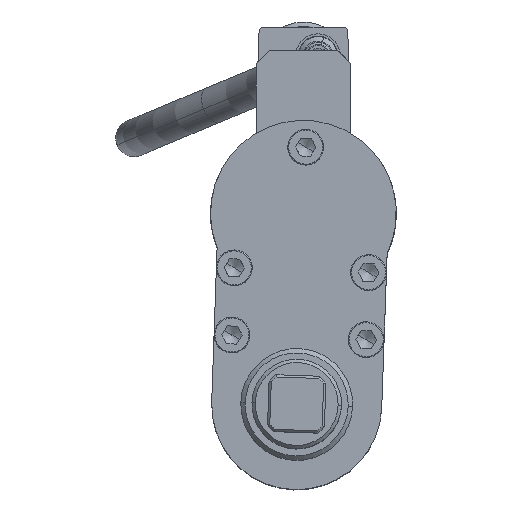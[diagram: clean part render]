
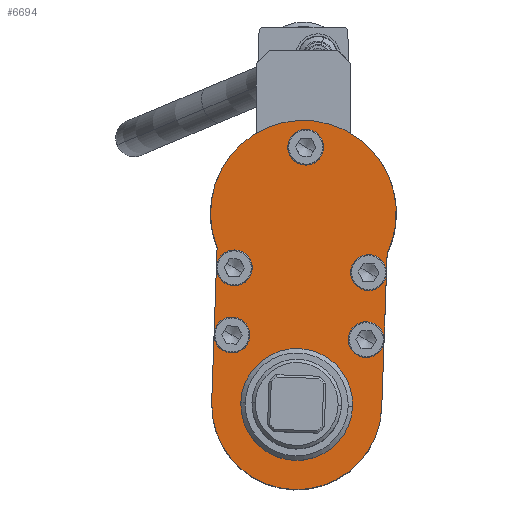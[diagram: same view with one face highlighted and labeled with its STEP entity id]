
A CAD part, top view. The second image highlights one B-rep face of the part: STEP entity #6694.
In plain terms, the highlighted planar face has unit normal (0, 0, 1).
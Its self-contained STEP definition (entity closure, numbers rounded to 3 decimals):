
#6550=AXIS2_PLACEMENT_3D('Plane Axis2P3D',#6547,#6548,#6549) ;
#6554=AXIS2_PLACEMENT_3D('Circle Axis2P3D',#6552,#6553,$) ;
#6570=AXIS2_PLACEMENT_3D('Circle Axis2P3D',#6568,#6569,$) ;
#6588=AXIS2_PLACEMENT_3D('Circle Axis2P3D',#6586,#6587,$) ;
#6597=AXIS2_PLACEMENT_3D('Circle Axis2P3D',#6595,#6596,$) ;
#6606=AXIS2_PLACEMENT_3D('Circle Axis2P3D',#6604,#6605,$) ;
#6615=AXIS2_PLACEMENT_3D('Circle Axis2P3D',#6613,#6614,$) ;
#6624=AXIS2_PLACEMENT_3D('Circle Axis2P3D',#6622,#6623,$) ;
#6633=AXIS2_PLACEMENT_3D('Circle Axis2P3D',#6631,#6632,$) ;
#6642=AXIS2_PLACEMENT_3D('Circle Axis2P3D',#6640,#6641,$) ;
#6651=AXIS2_PLACEMENT_3D('Circle Axis2P3D',#6649,#6650,$) ;
#6660=AXIS2_PLACEMENT_3D('Circle Axis2P3D',#6658,#6659,$) ;
#6669=AXIS2_PLACEMENT_3D('Circle Axis2P3D',#6667,#6668,$) ;
#6678=AXIS2_PLACEMENT_3D('Circle Axis2P3D',#6676,#6677,$) ;
#6687=AXIS2_PLACEMENT_3D('Circle Axis2P3D',#6685,#6686,$) ;
#6547=CARTESIAN_POINT('Axis2P3D Location',(-2.984,-85.448,581.6)) ;
#6552=CARTESIAN_POINT('Axis2P3D Location',(-2.984,-85.448,581.6)) ;
#6556=CARTESIAN_POINT('Vertex',(-40.961,-84.122,581.6)) ;
#6558=CARTESIAN_POINT('Vertex',(34.993,-86.774,581.6)) ;
#6561=CARTESIAN_POINT('Line Origine',(36.194,-52.385,581.6)) ;
#6565=CARTESIAN_POINT('Vertex',(37.395,-17.997,581.6)) ;
#6568=CARTESIAN_POINT('Axis2P3D Location',(0.,0.,581.6)) ;
#6572=CARTESIAN_POINT('Vertex',(-38.559,-15.344,581.6)) ;
#6575=CARTESIAN_POINT('Line Origine',(-39.76,-49.733,581.6)) ;
#6586=CARTESIAN_POINT('Axis2P3D Location',(1.03,29.482,581.6)) ;
#6590=CARTESIAN_POINT('Vertex',(-3.004,31.872,581.6)) ;
#6592=CARTESIAN_POINT('Vertex',(5.063,27.092,581.6)) ;
#6595=CARTESIAN_POINT('Axis2P3D Location',(1.03,29.482,581.6)) ;
#6604=CARTESIAN_POINT('Axis2P3D Location',(-31.919,-54.419,581.6)) ;
#6608=CARTESIAN_POINT('Vertex',(-35.952,-52.029,581.6)) ;
#6610=CARTESIAN_POINT('Vertex',(-27.885,-56.809,581.6)) ;
#6613=CARTESIAN_POINT('Axis2P3D Location',(-31.919,-54.419,581.6)) ;
#6622=CARTESIAN_POINT('Axis2P3D Location',(-2.984,-85.448,581.6)) ;
#6626=CARTESIAN_POINT('Vertex',(22.001,-86.32,581.6)) ;
#6628=CARTESIAN_POINT('Vertex',(-27.969,-84.575,581.6)) ;
#6631=CARTESIAN_POINT('Axis2P3D Location',(-2.984,-85.448,581.6)) ;
#6640=CARTESIAN_POINT('Axis2P3D Location',(28.045,-56.513,581.6)) ;
#6644=CARTESIAN_POINT('Vertex',(32.078,-58.903,581.6)) ;
#6646=CARTESIAN_POINT('Vertex',(24.012,-54.123,581.6)) ;
#6649=CARTESIAN_POINT('Axis2P3D Location',(28.045,-56.513,581.6)) ;
#6658=CARTESIAN_POINT('Axis2P3D Location',(-30.872,-24.437,581.6)) ;
#6662=CARTESIAN_POINT('Vertex',(-26.838,-26.827,581.6)) ;
#6664=CARTESIAN_POINT('Vertex',(-34.905,-22.048,581.6)) ;
#6667=CARTESIAN_POINT('Axis2P3D Location',(-30.872,-24.437,581.6)) ;
#6676=CARTESIAN_POINT('Axis2P3D Location',(29.092,-26.531,581.6)) ;
#6680=CARTESIAN_POINT('Vertex',(33.125,-28.921,581.6)) ;
#6682=CARTESIAN_POINT('Vertex',(25.059,-24.142,581.6)) ;
#6685=CARTESIAN_POINT('Axis2P3D Location',(29.092,-26.531,581.6)) ;
#6548=DIRECTION('Axis2P3D Direction',(-0.,0.,1.)) ;
#6549=DIRECTION('Axis2P3D XDirection',(0.999,-0.035,0.)) ;
#6553=DIRECTION('Axis2P3D Direction',(-0.,0.,1.)) ;
#6562=DIRECTION('Vector Direction',(0.035,0.999,0.)) ;
#6569=DIRECTION('Axis2P3D Direction',(-0.,0.,1.)) ;
#6576=DIRECTION('Vector Direction',(-0.035,-0.999,0.)) ;
#6587=DIRECTION('Axis2P3D Direction',(-0.,0.,1.)) ;
#6596=DIRECTION('Axis2P3D Direction',(-0.,0.,1.)) ;
#6605=DIRECTION('Axis2P3D Direction',(-0.,0.,1.)) ;
#6614=DIRECTION('Axis2P3D Direction',(-0.,0.,1.)) ;
#6623=DIRECTION('Axis2P3D Direction',(-0.,0.,1.)) ;
#6632=DIRECTION('Axis2P3D Direction',(-0.,0.,1.)) ;
#6641=DIRECTION('Axis2P3D Direction',(-0.,0.,1.)) ;
#6650=DIRECTION('Axis2P3D Direction',(-0.,0.,1.)) ;
#6659=DIRECTION('Axis2P3D Direction',(-0.,0.,1.)) ;
#6668=DIRECTION('Axis2P3D Direction',(-0.,0.,1.)) ;
#6677=DIRECTION('Axis2P3D Direction',(-0.,0.,1.)) ;
#6686=DIRECTION('Axis2P3D Direction',(-0.,0.,1.)) ;
#6563=VECTOR('Line Direction',#6562,1.) ;
#6577=VECTOR('Line Direction',#6576,1.) ;
#6581=ORIENTED_EDGE('',*,*,#6560,.T.) ;
#6582=ORIENTED_EDGE('',*,*,#6567,.T.) ;
#6583=ORIENTED_EDGE('',*,*,#6574,.T.) ;
#6584=ORIENTED_EDGE('',*,*,#6579,.T.) ;
#6601=ORIENTED_EDGE('',*,*,#6594,.F.) ;
#6602=ORIENTED_EDGE('',*,*,#6599,.F.) ;
#6619=ORIENTED_EDGE('',*,*,#6612,.F.) ;
#6620=ORIENTED_EDGE('',*,*,#6617,.F.) ;
#6637=ORIENTED_EDGE('',*,*,#6630,.F.) ;
#6638=ORIENTED_EDGE('',*,*,#6635,.F.) ;
#6655=ORIENTED_EDGE('',*,*,#6648,.F.) ;
#6656=ORIENTED_EDGE('',*,*,#6653,.F.) ;
#6673=ORIENTED_EDGE('',*,*,#6666,.F.) ;
#6674=ORIENTED_EDGE('',*,*,#6671,.F.) ;
#6691=ORIENTED_EDGE('',*,*,#6684,.F.) ;
#6692=ORIENTED_EDGE('',*,*,#6689,.F.) ;
#6603=FACE_BOUND('',#6600,.T.) ;
#6621=FACE_BOUND('',#6618,.T.) ;
#6639=FACE_BOUND('',#6636,.T.) ;
#6657=FACE_BOUND('',#6654,.T.) ;
#6675=FACE_BOUND('',#6672,.T.) ;
#6693=FACE_BOUND('',#6690,.T.) ;
#6694=ADVANCED_FACE('AO3325.1\\AO3325_Gehauese.1\\Hauptk\X2\00F6\X0\rper',(#6585,#6603,#6621,#6639,#6657,#6675,#6693),#6551,.T.) ;
#6555=CIRCLE('generated circle',#6554,38.) ;
#6571=CIRCLE('generated circle',#6570,41.5) ;
#6589=CIRCLE('generated circle',#6588,4.688) ;
#6598=CIRCLE('generated circle',#6597,4.688) ;
#6607=CIRCLE('generated circle',#6606,4.688) ;
#6616=CIRCLE('generated circle',#6615,4.688) ;
#6625=CIRCLE('generated circle',#6624,25.) ;
#6634=CIRCLE('generated circle',#6633,25.) ;
#6643=CIRCLE('generated circle',#6642,4.688) ;
#6652=CIRCLE('generated circle',#6651,4.688) ;
#6661=CIRCLE('generated circle',#6660,4.688) ;
#6670=CIRCLE('generated circle',#6669,4.688) ;
#6679=CIRCLE('generated circle',#6678,4.688) ;
#6688=CIRCLE('generated circle',#6687,4.688) ;
#6560=EDGE_CURVE('',#6557,#6559,#6555,.T.) ;
#6567=EDGE_CURVE('',#6559,#6566,#6564,.T.) ;
#6574=EDGE_CURVE('',#6566,#6573,#6571,.T.) ;
#6579=EDGE_CURVE('',#6573,#6557,#6578,.T.) ;
#6594=EDGE_CURVE('',#6591,#6593,#6589,.T.) ;
#6599=EDGE_CURVE('',#6593,#6591,#6598,.T.) ;
#6612=EDGE_CURVE('',#6609,#6611,#6607,.T.) ;
#6617=EDGE_CURVE('',#6611,#6609,#6616,.T.) ;
#6630=EDGE_CURVE('',#6627,#6629,#6625,.T.) ;
#6635=EDGE_CURVE('',#6629,#6627,#6634,.T.) ;
#6648=EDGE_CURVE('',#6645,#6647,#6643,.T.) ;
#6653=EDGE_CURVE('',#6647,#6645,#6652,.T.) ;
#6666=EDGE_CURVE('',#6663,#6665,#6661,.T.) ;
#6671=EDGE_CURVE('',#6665,#6663,#6670,.T.) ;
#6684=EDGE_CURVE('',#6681,#6683,#6679,.T.) ;
#6689=EDGE_CURVE('',#6683,#6681,#6688,.T.) ;
#6580=EDGE_LOOP('',(#6581,#6582,#6583,#6584)) ;
#6600=EDGE_LOOP('',(#6601,#6602)) ;
#6618=EDGE_LOOP('',(#6619,#6620)) ;
#6636=EDGE_LOOP('',(#6637,#6638)) ;
#6654=EDGE_LOOP('',(#6655,#6656)) ;
#6672=EDGE_LOOP('',(#6673,#6674)) ;
#6690=EDGE_LOOP('',(#6691,#6692)) ;
#6585=FACE_OUTER_BOUND('',#6580,.T.) ;
#6564=LINE('Line',#6561,#6563) ;
#6578=LINE('Line',#6575,#6577) ;
#6551=PLANE('Plane',#6550) ;
#6557=VERTEX_POINT('',#6556) ;
#6559=VERTEX_POINT('',#6558) ;
#6566=VERTEX_POINT('',#6565) ;
#6573=VERTEX_POINT('',#6572) ;
#6591=VERTEX_POINT('',#6590) ;
#6593=VERTEX_POINT('',#6592) ;
#6609=VERTEX_POINT('',#6608) ;
#6611=VERTEX_POINT('',#6610) ;
#6627=VERTEX_POINT('',#6626) ;
#6629=VERTEX_POINT('',#6628) ;
#6645=VERTEX_POINT('',#6644) ;
#6647=VERTEX_POINT('',#6646) ;
#6663=VERTEX_POINT('',#6662) ;
#6665=VERTEX_POINT('',#6664) ;
#6681=VERTEX_POINT('',#6680) ;
#6683=VERTEX_POINT('',#6682) ;
